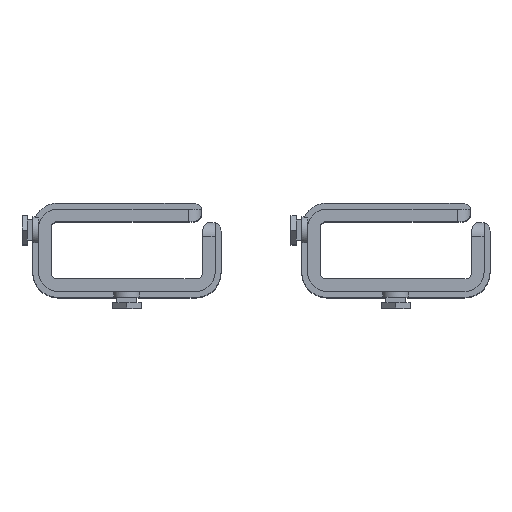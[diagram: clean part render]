
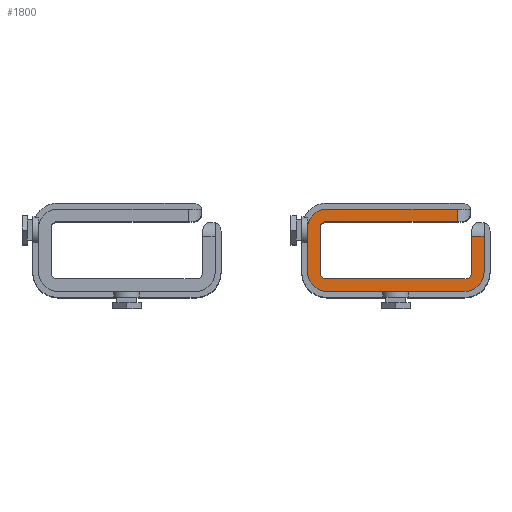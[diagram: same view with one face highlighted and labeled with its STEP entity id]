
A CAD part, top view. The second image highlights one B-rep face of the part: STEP entity #1800.
In plain terms, the highlighted planar face has unit normal (0, 0, 1).
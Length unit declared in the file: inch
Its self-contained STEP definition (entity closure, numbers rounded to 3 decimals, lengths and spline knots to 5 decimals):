
#144=CIRCLE('',#1981,0.125);
#145=CIRCLE('',#1982,0.125);
#146=CIRCLE('',#1983,0.125);
#147=CIRCLE('',#1984,0.355);
#148=CIRCLE('',#1985,0.355);
#149=CIRCLE('',#1986,0.355);
#227=FACE_OUTER_BOUND('',#326,.T.);
#326=EDGE_LOOP('',(#1542,#1543,#1544,#1545,#1546,#1547,#1548,#1549,#1550,
#1551,#1552,#1553,#1554,#1555,#1556,#1557,#1558,#1559));
#464=LINE('',#2839,#647);
#465=LINE('',#2842,#648);
#492=LINE('',#2942,#675);
#494=LINE('',#2949,#677);
#499=LINE('',#3001,#682);
#510=LINE('',#3053,#693);
#512=LINE('',#3084,#695);
#515=LINE('',#3093,#698);
#516=LINE('',#3097,#699);
#517=LINE('',#3100,#700);
#518=LINE('',#3103,#701);
#519=LINE('',#3107,#702);
#647=VECTOR('',#2298,0.3937);
#648=VECTOR('',#2301,0.3937);
#675=VECTOR('',#2390,0.3937);
#677=VECTOR('',#2396,0.3937);
#682=VECTOR('',#2409,0.3937);
#693=VECTOR('',#2448,0.3937);
#695=VECTOR('',#2454,0.3937);
#698=VECTOR('',#2465,0.3937);
#699=VECTOR('',#2468,0.3937);
#700=VECTOR('',#2471,0.3937);
#701=VECTOR('',#2474,0.3937);
#702=VECTOR('',#2479,0.3937);
#792=VERTEX_POINT('',#2810);
#801=VERTEX_POINT('',#2837);
#802=VERTEX_POINT('',#2841);
#817=VERTEX_POINT('',#2876);
#838=VERTEX_POINT('',#2941);
#839=VERTEX_POINT('',#2945);
#841=VERTEX_POINT('',#2948);
#848=VERTEX_POINT('',#2999);
#862=VERTEX_POINT('',#3050);
#863=VERTEX_POINT('',#3052);
#866=VERTEX_POINT('',#3083);
#867=VERTEX_POINT('',#3090);
#868=VERTEX_POINT('',#3092);
#869=VERTEX_POINT('',#3094);
#870=VERTEX_POINT('',#3096);
#871=VERTEX_POINT('',#3099);
#872=VERTEX_POINT('',#3102);
#873=VERTEX_POINT('',#3105);
#1015=EDGE_CURVE('',#792,#801,#464,.T.);
#1016=EDGE_CURVE('',#802,#792,#465,.T.);
#1064=EDGE_CURVE('',#838,#817,#492,.T.);
#1067=EDGE_CURVE('',#841,#839,#494,.T.);
#1079=EDGE_CURVE('',#839,#848,#499,.T.);
#1101=EDGE_CURVE('',#862,#863,#510,.T.);
#1106=EDGE_CURVE('',#866,#863,#512,.T.);
#1109=EDGE_CURVE('',#867,#848,#144,.T.);
#1110=EDGE_CURVE('',#867,#868,#515,.T.);
#1111=EDGE_CURVE('',#869,#868,#145,.T.);
#1112=EDGE_CURVE('',#869,#870,#516,.T.);
#1113=EDGE_CURVE('',#866,#870,#146,.T.);
#1114=EDGE_CURVE('',#862,#871,#517,.T.);
#1115=EDGE_CURVE('',#871,#838,#147,.T.);
#1116=EDGE_CURVE('',#817,#872,#518,.T.);
#1117=EDGE_CURVE('',#872,#802,#148,.T.);
#1118=EDGE_CURVE('',#801,#873,#149,.T.);
#1119=EDGE_CURVE('',#873,#841,#519,.T.);
#1542=ORIENTED_EDGE('',*,*,#1067,.T.);
#1543=ORIENTED_EDGE('',*,*,#1079,.T.);
#1544=ORIENTED_EDGE('',*,*,#1109,.F.);
#1545=ORIENTED_EDGE('',*,*,#1110,.T.);
#1546=ORIENTED_EDGE('',*,*,#1111,.F.);
#1547=ORIENTED_EDGE('',*,*,#1112,.T.);
#1548=ORIENTED_EDGE('',*,*,#1113,.F.);
#1549=ORIENTED_EDGE('',*,*,#1106,.T.);
#1550=ORIENTED_EDGE('',*,*,#1101,.F.);
#1551=ORIENTED_EDGE('',*,*,#1114,.T.);
#1552=ORIENTED_EDGE('',*,*,#1115,.T.);
#1553=ORIENTED_EDGE('',*,*,#1064,.T.);
#1554=ORIENTED_EDGE('',*,*,#1116,.T.);
#1555=ORIENTED_EDGE('',*,*,#1117,.T.);
#1556=ORIENTED_EDGE('',*,*,#1016,.T.);
#1557=ORIENTED_EDGE('',*,*,#1015,.T.);
#1558=ORIENTED_EDGE('',*,*,#1118,.T.);
#1559=ORIENTED_EDGE('',*,*,#1119,.T.);
#1712=PLANE('',#1980);
#1800=ADVANCED_FACE('',(#227),#1712,.T.);
#1980=AXIS2_PLACEMENT_3D('',#3089,#2461,#2462);
#1981=AXIS2_PLACEMENT_3D('',#3091,#2463,#2464);
#1982=AXIS2_PLACEMENT_3D('',#3095,#2466,#2467);
#1983=AXIS2_PLACEMENT_3D('',#3098,#2469,#2470);
#1984=AXIS2_PLACEMENT_3D('',#3101,#2472,#2473);
#1985=AXIS2_PLACEMENT_3D('',#3104,#2475,#2476);
#1986=AXIS2_PLACEMENT_3D('',#3106,#2477,#2478);
#2298=DIRECTION('',(1.,0.,0.));
#2301=DIRECTION('',(1.,0.,0.));
#2390=DIRECTION('',(0.,-1.,0.));
#2396=DIRECTION('',(-1.,0.,0.));
#2409=DIRECTION('',(0.,-1.,0.));
#2448=DIRECTION('',(0.,-1.,0.));
#2454=DIRECTION('',(1.,0.,0.));
#2461=DIRECTION('center_axis',(0.,0.,1.));
#2462=DIRECTION('ref_axis',(1.,0.,0.));
#2463=DIRECTION('center_axis',(0.,0.,1.));
#2464=DIRECTION('ref_axis',(0.707,-0.707,0.));
#2465=DIRECTION('',(-1.,0.,0.));
#2466=DIRECTION('center_axis',(0.,0.,1.));
#2467=DIRECTION('ref_axis',(-0.707,-0.707,0.));
#2468=DIRECTION('',(0.,1.,0.));
#2469=DIRECTION('center_axis',(0.,0.,1.));
#2470=DIRECTION('ref_axis',(-0.707,0.707,0.));
#2471=DIRECTION('',(-1.,0.,0.));
#2472=DIRECTION('center_axis',(0.,0.,1.));
#2473=DIRECTION('ref_axis',(0.,1.,0.));
#2474=DIRECTION('',(0.,-1.,0.));
#2475=DIRECTION('center_axis',(0.,0.,1.));
#2476=DIRECTION('ref_axis',(-1.,0.,0.));
#2477=DIRECTION('center_axis',(0.,0.,1.));
#2478=DIRECTION('ref_axis',(0.,-1.,0.));
#2479=DIRECTION('',(0.,1.,0.));
#2810=CARTESIAN_POINT('',(-1.4,-1.3,0.5));
#2837=CARTESIAN_POINT('',(-0.115,-1.3,0.5));
#2839=CARTESIAN_POINT('',(-2.0474,-1.3,0.5));
#2841=CARTESIAN_POINT('',(-2.685,-1.3,0.5));
#2842=CARTESIAN_POINT('',(-2.0474,-1.3,0.5));
#2876=CARTESIAN_POINT('',(-3.04,-0.16,0.5));
#2941=CARTESIAN_POINT('',(-3.04,-0.125,0.5));
#2942=CARTESIAN_POINT('',(-3.04,-0.33394,0.5));
#2945=CARTESIAN_POINT('',(0.01,-0.27094,0.5));
#2948=CARTESIAN_POINT('',(0.24,-0.27094,0.5));
#2949=CARTESIAN_POINT('',(0.24,-0.27094,0.5));
#2999=CARTESIAN_POINT('',(0.01,-0.945,0.5));
#3001=CARTESIAN_POINT('',(0.01,-1.07,0.5));
#3050=CARTESIAN_POINT('',(-0.26094,0.23,0.5));
#3052=CARTESIAN_POINT('',(-0.26094,0.,0.5));
#3053=CARTESIAN_POINT('',(-0.26094,0.23,0.5));
#3083=CARTESIAN_POINT('',(-2.685,0.,0.5));
#3084=CARTESIAN_POINT('',(0.,0.,0.5));
#3089=CARTESIAN_POINT('Origin',(-1.4098,-0.54288,0.5));
#3090=CARTESIAN_POINT('',(-0.115,-1.07,0.5));
#3091=CARTESIAN_POINT('Origin',(-0.115,-0.945,0.5));
#3092=CARTESIAN_POINT('',(-2.685,-1.07,0.5));
#3093=CARTESIAN_POINT('',(-2.81,-1.07,0.5));
#3094=CARTESIAN_POINT('',(-2.81,-0.945,0.5));
#3095=CARTESIAN_POINT('Origin',(-2.685,-0.945,0.5));
#3096=CARTESIAN_POINT('',(-2.81,-0.125,0.5));
#3097=CARTESIAN_POINT('',(-2.81,0.,0.5));
#3098=CARTESIAN_POINT('Origin',(-2.685,-0.125,0.5));
#3099=CARTESIAN_POINT('',(-2.685,0.23,0.5));
#3100=CARTESIAN_POINT('',(-0.71037,0.23,0.5));
#3101=CARTESIAN_POINT('Origin',(-2.685,-0.125,0.5));
#3102=CARTESIAN_POINT('',(-3.04,-0.945,0.5));
#3103=CARTESIAN_POINT('',(-3.04,-0.33394,0.5));
#3104=CARTESIAN_POINT('Origin',(-2.685,-0.945,0.5));
#3105=CARTESIAN_POINT('',(0.24,-0.945,0.5));
#3106=CARTESIAN_POINT('Origin',(-0.115,-0.945,0.5));
#3107=CARTESIAN_POINT('',(0.24,-0.74394,0.5));
